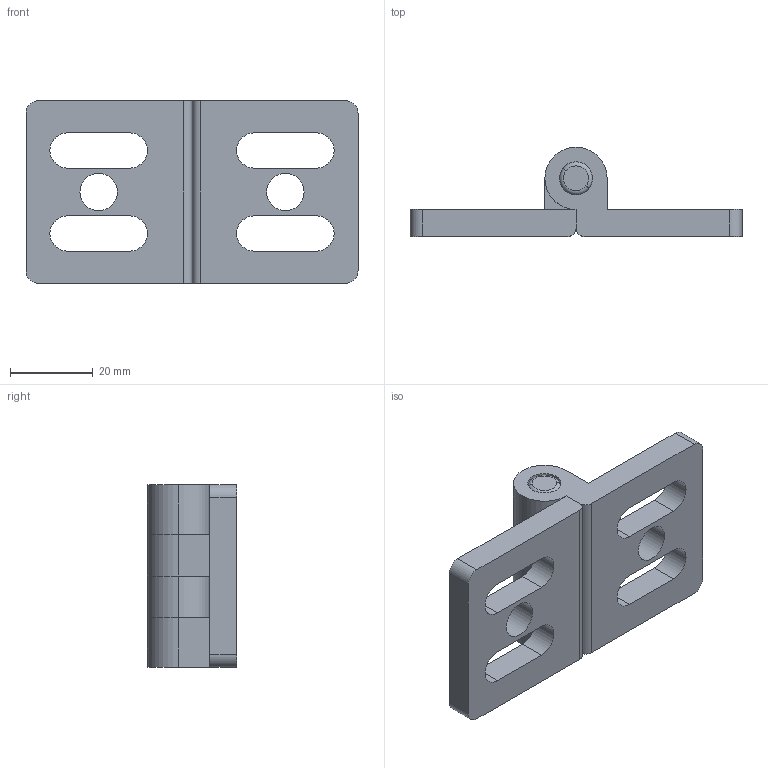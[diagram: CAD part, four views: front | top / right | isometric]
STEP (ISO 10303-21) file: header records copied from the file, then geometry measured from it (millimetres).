
FILE_DESCRIPTION (( 'STEP AP203' ), '1' );
FILE_NAME ('212-CE-HGAL-45.STEP', '2015-07-09T09:27:14', ( '' ), ( '' ), 'SwSTEP 2.0', 'SolidWorks 2013', '' );
FILE_SCHEMA (( 'CONFIG_CONTROL_DESIGN' ));
Length unit declared in the file: millimetre
Products named in the file (1): 212-CE-HGAL-45
Bounding box: 80 x 21.5 x 44 mm (x, y, z)
Surface area: 12208.3 mm2 (no closed solid volume)
Topology: 0 solids, 4 shells, 68 faces, 194 edges, 130 vertices
Faces by surface type: cylinder 34, plane 30, torus 4
Entity records: 2352 total; most frequent: DIRECTION 420, CARTESIAN_POINT 393, ORIENTED_EDGE 362, EDGE_CURVE 194, AXIS2_PLACEMENT_3D 157, VERTEX_POINT 130, LINE 106, VECTOR 106
